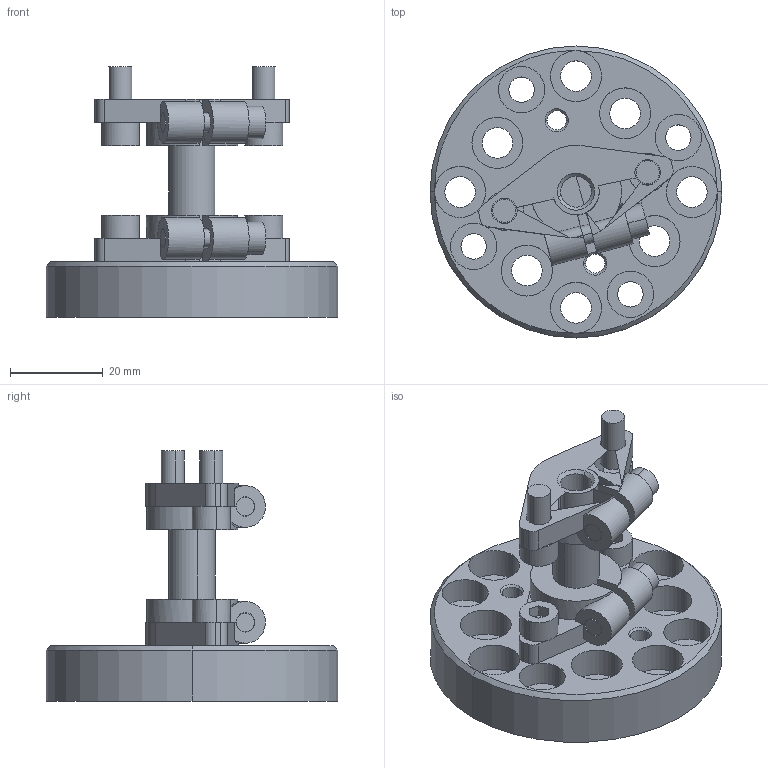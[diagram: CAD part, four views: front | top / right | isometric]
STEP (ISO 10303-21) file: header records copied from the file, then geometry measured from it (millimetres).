
FILE_DESCRIPTION (( 'STEP AP214' ), '1' );
FILE_NAME ('FCM_R01_02_02_.STEP', '2019-12-04T09:23:44', ( '微软用户' ), ( '微软中国' ), 'SwSTEP 2.0', 'SolidWorks 2016', '' );
FILE_SCHEMA (( 'AUTOMOTIVE_DESIGN' ));
Length unit declared in the file: millimetre
Products named in the file (1): FCM_R01_02_02_
Bounding box: 63 x 63 x 54 mm (x, y, z)
Volume: 39302.7 mm3; surface area: 20953.8 mm2
Topology: 2 solids, 2 shells, 290 faces, 713 edges, 457 vertices
Faces by surface type: cylinder 140, plane 124, cone 26
Entity records: 12055 total; most frequent: CARTESIAN_POINT 1615, DIRECTION 1612, ORIENTED_EDGE 1426, EDGE_CURVE 713, AXIS2_PLACEMENT_3D 624, VERTEX_POINT 457, LINE 364, VECTOR 364
